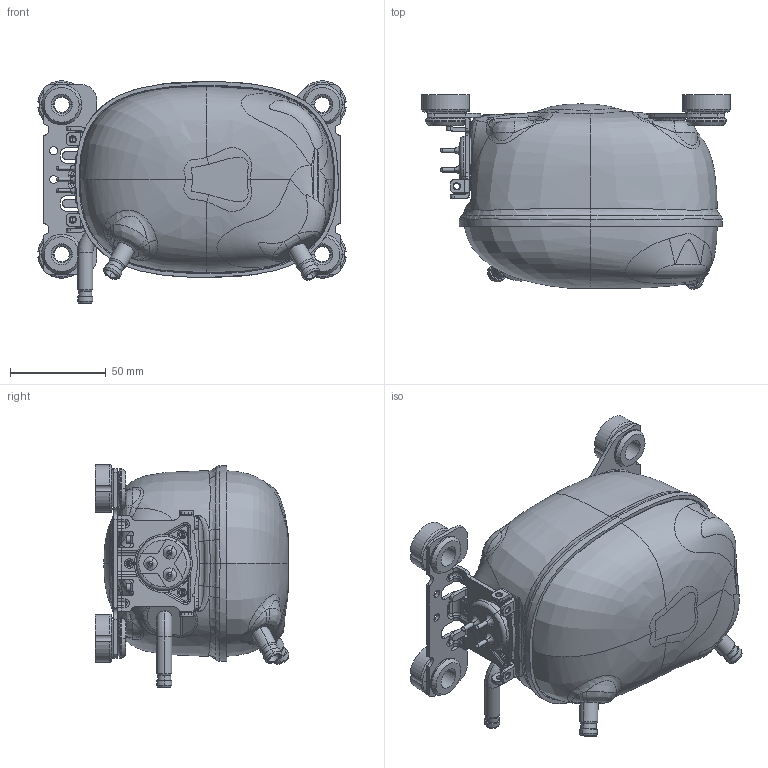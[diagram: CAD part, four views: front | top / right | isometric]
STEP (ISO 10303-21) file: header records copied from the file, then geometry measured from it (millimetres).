
FILE_DESCRIPTION((''),'2;1');
FILE_NAME('101B0020_101B0158_NONE_ASM','2018-11-13T',('CN6198'),(''),'CREO PARAMETRIC BY PTC INC, 2015380','CREO PARAMETRIC BY PTC INC, 2015380','');
FILE_SCHEMA(('CONFIG_CONTROL_DESIGN'));
Products named in the file (24): 101B0014_SKEL; 101B0402; 101B0651; 101B0510; 101B0509; 101B0601; 101B0618; 101B0627; 101B6007; 101B0628; 101B0629; 101B0020_ASM; 101B0158; 101B0313_AF0; 101B0609; 101B0809; 101B0158_ASM; 117-3617_BODY; 117-3632_PINS; 117-3617_GLASS_FUSED; 117-3632_ASM; 118-3661; 101B0813_BEND; 101B0020_101B0158_NONE_ASM
Assembly tree (34 placements, depth 3):
  101B0020_101B0158_NONE_ASM
    101B0020_ASM
      101B0014_SKEL
      101B0402
      101B0651  x4
      101B0510
      101B0509
      101B0601
      101B0618
      101B0627
      101B6007
      101B0628
      101B0629
    101B0158_ASM
      101B0158
      101B0313_AF0
      101B0609
      101B0809  x2
    117-3632_ASM
      117-3617_BODY
      117-3632_PINS  x3
      117-3617_GLASS_FUSED  x3
    118-3661  x4
    101B0813_BEND
Bounding box: 160.78 x 101.23 x 116.02 mm (x, y, z)
Volume: 162849.6 mm3; surface area: 138256.4 mm2
Topology: 29 solids, 29 shells, 1570 faces, 3720 edges, 2210 vertices
Faces by surface type: bspline 472, cylinder 395, plane 318, torus 170, cone 152, sphere 32, revolution 16, extrusion 15
Entity records: 93212 total; most frequent: CARTESIAN_POINT 63408, ORIENTED_EDGE 6580, DIRECTION 5594, EDGE_CURVE 3290, AXIS2_PLACEMENT_3D 2300, VERTEX_POINT 1985, EDGE_LOOP 1469, FACE_OUTER_BOUND 1376
